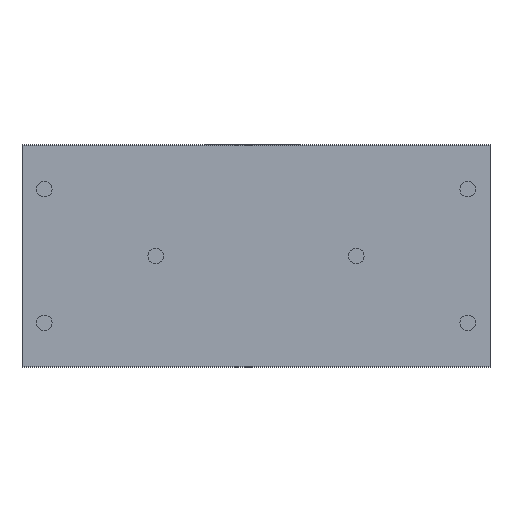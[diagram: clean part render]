
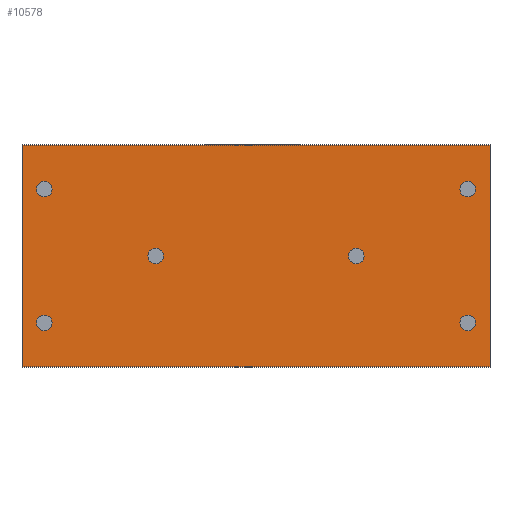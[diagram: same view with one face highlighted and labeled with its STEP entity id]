
A CAD part, front view. The second image highlights one B-rep face of the part: STEP entity #10578.
In plain terms, the highlighted planar face has unit normal (0, -1, 0).
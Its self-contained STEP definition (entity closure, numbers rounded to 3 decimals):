
#352=CIRCLE('',#11204,3.5);
#353=CIRCLE('',#11205,3.5);
#354=CIRCLE('',#11206,3.5);
#355=CIRCLE('',#11207,3.5);
#356=CIRCLE('',#11208,3.5);
#357=CIRCLE('',#11209,3.5);
#1076=ORIENTED_EDGE('',*,*,#4317,.F.);
#1077=ORIENTED_EDGE('',*,*,#4318,.F.);
#1078=ORIENTED_EDGE('',*,*,#4319,.T.);
#1079=ORIENTED_EDGE('',*,*,#4320,.F.);
#1080=ORIENTED_EDGE('',*,*,#4321,.F.);
#1081=ORIENTED_EDGE('',*,*,#4322,.F.);
#1082=ORIENTED_EDGE('',*,*,#4271,.T.);
#1083=ORIENTED_EDGE('',*,*,#4323,.F.);
#1084=ORIENTED_EDGE('',*,*,#4324,.F.);
#1085=ORIENTED_EDGE('',*,*,#4315,.T.);
#4271=EDGE_CURVE('',#5898,#5897,#6987,.T.);
#4315=EDGE_CURVE('',#5932,#5898,#7031,.T.);
#4317=EDGE_CURVE('',#5933,#5933,#352,.T.);
#4318=EDGE_CURVE('',#5934,#5934,#353,.T.);
#4319=EDGE_CURVE('',#5935,#5935,#354,.T.);
#4320=EDGE_CURVE('',#5936,#5936,#355,.T.);
#4321=EDGE_CURVE('',#5937,#5937,#356,.T.);
#4322=EDGE_CURVE('',#5938,#5938,#357,.T.);
#4323=EDGE_CURVE('',#5939,#5897,#7033,.T.);
#4324=EDGE_CURVE('',#5932,#5939,#7034,.T.);
#5897=VERTEX_POINT('',#15962);
#5898=VERTEX_POINT('',#15964);
#5932=VERTEX_POINT('',#16049);
#5933=VERTEX_POINT('',#16053);
#5934=VERTEX_POINT('',#16055);
#5935=VERTEX_POINT('',#16057);
#5936=VERTEX_POINT('',#16059);
#5937=VERTEX_POINT('',#16061);
#5938=VERTEX_POINT('',#16063);
#5939=VERTEX_POINT('',#16065);
#6987=LINE('',#15963,#7975);
#7031=LINE('',#16048,#8019);
#7033=LINE('',#16064,#8021);
#7034=LINE('',#16066,#8022);
#7975=VECTOR('',#12470,1000.);
#8019=VECTOR('',#12528,1000.);
#8021=VECTOR('',#12544,1000.);
#8022=VECTOR('',#12545,1000.);
#8945=EDGE_LOOP('',(#1076));
#8946=EDGE_LOOP('',(#1077));
#8947=EDGE_LOOP('',(#1078));
#8948=EDGE_LOOP('',(#1079));
#8949=EDGE_LOOP('',(#1080));
#8950=EDGE_LOOP('',(#1081));
#8951=EDGE_LOOP('',(#1082,#1083,#1084,#1085));
#9623=FACE_BOUND('',#8945,.T.);
#9624=FACE_BOUND('',#8946,.T.);
#9625=FACE_BOUND('',#8947,.T.);
#9626=FACE_BOUND('',#8948,.T.);
#9627=FACE_BOUND('',#8949,.T.);
#9628=FACE_BOUND('',#8950,.T.);
#9629=FACE_BOUND('',#8951,.T.);
#10301=PLANE('',#11203);
#10578=ADVANCED_FACE('',(#9623,#9624,#9625,#9626,#9627,#9628,#9629),#10301,
 .F.);
#11203=AXIS2_PLACEMENT_3D('',#16051,#12530,#12531);
#11204=AXIS2_PLACEMENT_3D('',#16052,#12532,#12533);
#11205=AXIS2_PLACEMENT_3D('',#16054,#12534,#12535);
#11206=AXIS2_PLACEMENT_3D('',#16056,#12536,#12537);
#11207=AXIS2_PLACEMENT_3D('',#16058,#12538,#12539);
#11208=AXIS2_PLACEMENT_3D('',#16060,#12540,#12541);
#11209=AXIS2_PLACEMENT_3D('',#16062,#12542,#12543);
#12470=DIRECTION('',(0.,0.,-1.));
#12528=DIRECTION('',(-1.,0.,0.));
#12530=DIRECTION('',(0.,1.,0.));
#12531=DIRECTION('',(0.,0.,1.));
#12532=DIRECTION('',(0.,-1.,0.));
#12533=DIRECTION('',(0.,0.,-1.));
#12534=DIRECTION('',(0.,-1.,0.));
#12535=DIRECTION('',(0.,0.,-1.));
#12536=DIRECTION('',(0.,1.,0.));
#12537=DIRECTION('',(0.,0.,1.));
#12538=DIRECTION('',(0.,-1.,0.));
#12539=DIRECTION('',(0.,0.,-1.));
#12540=DIRECTION('',(0.,-1.,0.));
#12541=DIRECTION('',(0.,0.,-1.));
#12542=DIRECTION('',(0.,-1.,0.));
#12543=DIRECTION('',(0.,0.,-1.));
#12544=DIRECTION('',(-1.,0.,0.));
#12545=DIRECTION('',(0.,0.,-1.));
#15962=CARTESIAN_POINT('',(0.,0.,-49.7));
#15963=CARTESIAN_POINT('',(0.,0.,49.7));
#15964=CARTESIAN_POINT('',(0.,0.,49.7));
#16048=CARTESIAN_POINT('',(210.,0.,49.7));
#16049=CARTESIAN_POINT('',(210.,0.,49.7));
#16051=CARTESIAN_POINT('',(210.,0.,49.7));
#16052=CARTESIAN_POINT('',(150.,0.,0.));
#16053=CARTESIAN_POINT('',(150.,0.,-3.5));
#16054=CARTESIAN_POINT('',(60.,0.,0.));
#16055=CARTESIAN_POINT('',(60.,0.,-3.5));
#16056=CARTESIAN_POINT('',(200.,0.,30.));
#16057=CARTESIAN_POINT('',(200.,0.,33.5));
#16058=CARTESIAN_POINT('',(200.,0.,-30.));
#16059=CARTESIAN_POINT('',(200.,0.,-33.5));
#16060=CARTESIAN_POINT('',(10.,0.,-30.));
#16061=CARTESIAN_POINT('',(10.,0.,-33.5));
#16062=CARTESIAN_POINT('',(10.,0.,30.));
#16063=CARTESIAN_POINT('',(10.,0.,26.5));
#16064=CARTESIAN_POINT('',(210.,0.,-49.7));
#16065=CARTESIAN_POINT('',(210.,0.,-49.7));
#16066=CARTESIAN_POINT('',(210.,0.,49.7));
